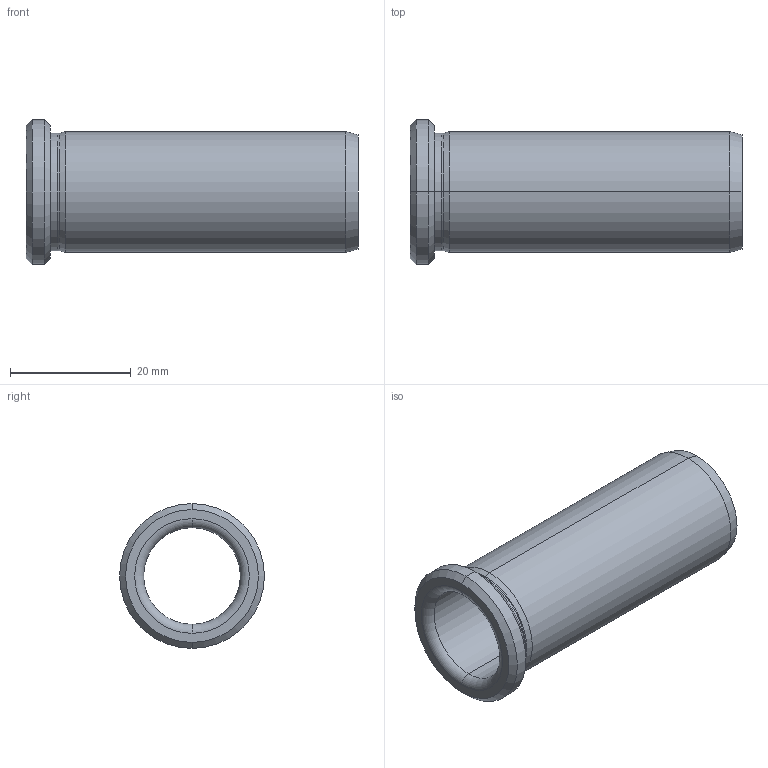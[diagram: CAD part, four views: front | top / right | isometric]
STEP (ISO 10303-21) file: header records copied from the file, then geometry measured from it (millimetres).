
FILE_DESCRIPTION (( 'STEP AP214' ), '1' );
FILE_NAME ('BRCVBG-16x55.STEP', '2020-07-21T12:04:22', ( '' ), ( '' ), 'SwSTEP 2.0', 'SolidWorks 2018', '' );
FILE_SCHEMA (( 'AUTOMOTIVE_DESIGN' ));
Length unit declared in the file: millimetre
Products named in the file (1): BRCVBG-16x55
Bounding box: 55 x 24 x 24 mm (x, y, z)
Volume: 6605.6 mm3; surface area: 6636.4 mm2
Topology: 1 solids, 1 shells, 23 faces, 46 edges, 26 vertices
Faces by surface type: cone 8, cylinder 8, torus 4, plane 3
Entity records: 636 total; most frequent: DIRECTION 124, CARTESIAN_POINT 96, ORIENTED_EDGE 92, AXIS2_PLACEMENT_3D 54, EDGE_CURVE 46, CIRCLE 30, EDGE_LOOP 26, VERTEX_POINT 26
